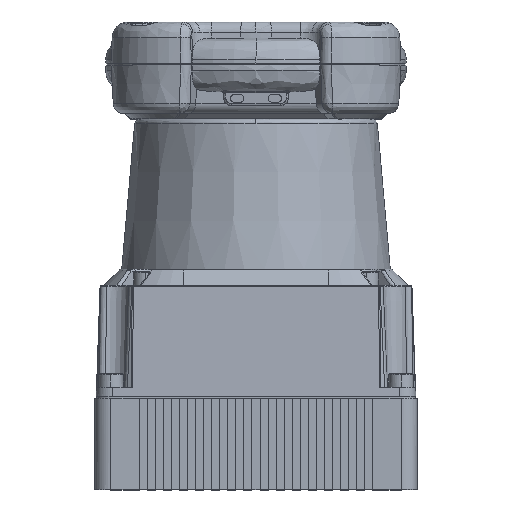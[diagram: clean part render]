
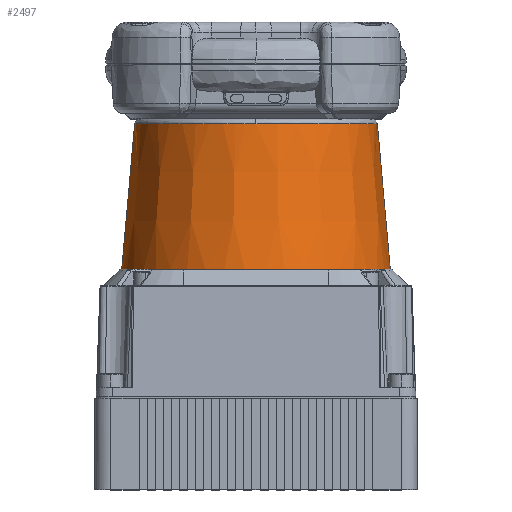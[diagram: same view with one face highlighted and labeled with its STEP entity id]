
A CAD part, top view. The second image highlights one B-rep face of the part: STEP entity #2497.
In plain terms, the highlighted conical face has half-angle 5.102 degrees and reference radius 22.581 mm.
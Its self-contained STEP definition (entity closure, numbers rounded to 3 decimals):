
#2497 = ADVANCED_FACE ( 'NONE', ( #28798 ), #28767, .T. ) ;
#2498 = EDGE_LOOP ( 'NONE', ( #2499, #2626, #2534, #2550, #2627 ) ) ;
#2499 = ORIENTED_EDGE ( 'NONE', *, *, #2500, .F. ) ;
#2500 = EDGE_CURVE ( 'NONE', #2624, #2622, #28562, .T. ) ;
#2527 = EDGE_CURVE ( 'NONE', #2622, #2537, #28622, .T. ) ;
#2534 = ORIENTED_EDGE ( 'NONE', *, *, #2635, .F. ) ;
#2537 = VERTEX_POINT ( 'NONE', #28966 ) ;
#2538 = EDGE_CURVE ( 'NONE', #2537, #2551, #28942, .T. ) ;
#2540 = VERTEX_POINT ( 'NONE', #29160 ) ;
#2550 = ORIENTED_EDGE ( 'NONE', *, *, #2538, .F. ) ;
#2551 = VERTEX_POINT ( 'NONE', #29116 ) ;
#2552 = EDGE_CURVE ( 'NONE', #2624, #2540, #29115, .T. ) ;
#2622 = VERTEX_POINT ( 'NONE', #29358 ) ;
#2624 = VERTEX_POINT ( 'NONE', #29353 ) ;
#2626 = ORIENTED_EDGE ( 'NONE', *, *, #2552, .T. ) ;
#2627 = ORIENTED_EDGE ( 'NONE', *, *, #2527, .F. ) ;
#2635 = EDGE_CURVE ( 'NONE', #2551, #2540, #29330, .T. ) ;
#28558 = CARTESIAN_POINT ( 'NONE',  ( 0., 27.089, 22.581 ) ) ;
#28559 = CARTESIAN_POINT ( 'NONE',  ( -11.699, 27.089, 22.581 ) ) ;
#28560 = CARTESIAN_POINT ( 'NONE',  ( -22.581, 27.089, 14.687 ) ) ;
#28561 = CARTESIAN_POINT ( 'NONE',  ( -22.581, 27.089, 0. ) ) ;
#28562 =( BOUNDED_CURVE ( )  B_SPLINE_CURVE ( 3, ( #28561, #28560, #28559, #28558 ),
 .UNSPECIFIED., .F., .T. ) 
 B_SPLINE_CURVE_WITH_KNOTS ( ( 4, 4 ),
 ( 0., 1. ),
 .UNSPECIFIED. ) 
 CURVE ( )  GEOMETRIC_REPRESENTATION_ITEM ( )  RATIONAL_B_SPLINE_CURVE ( ( 0.554, 0.528, 0.663, 0.959 ) ) 
 REPRESENTATION_ITEM ( '' )  );
#28606 = CARTESIAN_POINT ( 'NONE',  ( 22.581, 27.089, 0. ) ) ;
#28609 = CARTESIAN_POINT ( 'NONE',  ( 22.581, 27.089, 14.687 ) ) ;
#28611 = CARTESIAN_POINT ( 'NONE',  ( 11.699, 27.089, 22.581 ) ) ;
#28613 = CARTESIAN_POINT ( 'NONE',  ( 0., 27.089, 22.581 ) ) ;
#28622 =( BOUNDED_CURVE ( )  B_SPLINE_CURVE ( 3, ( #28613, #28611, #28609, #28606 ),
 .UNSPECIFIED., .F., .F. ) 
 B_SPLINE_CURVE_WITH_KNOTS ( ( 4, 4 ),
 ( 0., 1. ),
 .UNSPECIFIED. ) 
 CURVE ( )  GEOMETRIC_REPRESENTATION_ITEM ( )  RATIONAL_B_SPLINE_CURVE ( ( 0.959, 0.663, 0.528, 0.554 ) ) 
 REPRESENTATION_ITEM ( '' )  );
#28766 = AXIS2_PLACEMENT_3D ( 'NONE', #28803, #28773, #28772 ) ;
#28767 = CONICAL_SURFACE ( 'NONE', #28766, 22.581, 0.089 ) ;
#28772 = DIRECTION ( 'NONE',  ( 1., 0., 0. ) ) ;
#28773 = DIRECTION ( 'NONE',  ( 0., -1., 0. ) ) ;
#28798 = FACE_OUTER_BOUND ( 'NONE', #2498, .T. ) ;
#28803 = CARTESIAN_POINT ( 'NONE',  ( 0., 27.089, 0. ) ) ;
#28942 = LINE ( 'NONE', #29163, #29162 ) ;
#28966 = CARTESIAN_POINT ( 'NONE',  ( 22.581, 27.089, 0. ) ) ;
#29112 = DIRECTION ( 'NONE',  ( -0.089, -0.996, 0. ) ) ;
#29113 = VECTOR ( 'NONE', #29112, 1000. ) ;
#29114 = CARTESIAN_POINT ( 'NONE',  ( -22.581, 27.089, 0. ) ) ;
#29115 = LINE ( 'NONE', #29114, #29113 ) ;
#29116 = CARTESIAN_POINT ( 'NONE',  ( 25., 0., 0. ) ) ;
#29160 = CARTESIAN_POINT ( 'NONE',  ( -25., 0., 0. ) ) ;
#29161 = DIRECTION ( 'NONE',  ( 0.089, -0.996, 0. ) ) ;
#29162 = VECTOR ( 'NONE', #29161, 1000. ) ;
#29163 = CARTESIAN_POINT ( 'NONE',  ( 22.581, 27.089, 0. ) ) ;
#29192 = CARTESIAN_POINT ( 'NONE',  ( -22.471, 0., 11.079 ) ) ;
#29193 = CARTESIAN_POINT ( 'NONE',  ( -21.696, 0., 12.528 ) ) ;
#29194 = CARTESIAN_POINT ( 'NONE',  ( -19.877, 0., 15.25 ) ) ;
#29195 = CARTESIAN_POINT ( 'NONE',  ( -18.835, 0., 16.52 ) ) ;
#29196 = CARTESIAN_POINT ( 'NONE',  ( -16.52, 0., 18.835 ) ) ;
#29197 = CARTESIAN_POINT ( 'NONE',  ( -15.25, 0., 19.877 ) ) ;
#29198 = CARTESIAN_POINT ( 'NONE',  ( -12.528, 0., 21.696 ) ) ;
#29199 = CARTESIAN_POINT ( 'NONE',  ( -11.079, 0., 22.471 ) ) ;
#29200 = CARTESIAN_POINT ( 'NONE',  ( -8.055, 0., 23.723 ) ) ;
#29201 = CARTESIAN_POINT ( 'NONE',  ( -6.483, 0., 24.2 ) ) ;
#29202 = CARTESIAN_POINT ( 'NONE',  ( -3.272, 0., 24.839 ) ) ;
#29203 = CARTESIAN_POINT ( 'NONE',  ( -1.637, 0., 25. ) ) ;
#29204 = CARTESIAN_POINT ( 'NONE',  ( 1.637, 0., 25. ) ) ;
#29205 = CARTESIAN_POINT ( 'NONE',  ( 3.272, 0., 24.839 ) ) ;
#29206 = CARTESIAN_POINT ( 'NONE',  ( 6.483, 0., 24.2 ) ) ;
#29207 = CARTESIAN_POINT ( 'NONE',  ( 8.055, 0., 23.723 ) ) ;
#29208 = CARTESIAN_POINT ( 'NONE',  ( 11.079, 0., 22.471 ) ) ;
#29209 = CARTESIAN_POINT ( 'NONE',  ( 12.528, 0., 21.696 ) ) ;
#29210 = CARTESIAN_POINT ( 'NONE',  ( 15.25, 0., 19.877 ) ) ;
#29211 = CARTESIAN_POINT ( 'NONE',  ( 16.52, 0., 18.835 ) ) ;
#29212 = CARTESIAN_POINT ( 'NONE',  ( 18.835, 0., 16.52 ) ) ;
#29213 = CARTESIAN_POINT ( 'NONE',  ( 19.877, 0., 15.25 ) ) ;
#29214 = CARTESIAN_POINT ( 'NONE',  ( 21.696, 0., 12.528 ) ) ;
#29215 = CARTESIAN_POINT ( 'NONE',  ( 22.471, 0., 11.079 ) ) ;
#29216 = CARTESIAN_POINT ( 'NONE',  ( 23.723, 0., 8.055 ) ) ;
#29217 = CARTESIAN_POINT ( 'NONE',  ( 24.2, 0., 6.483 ) ) ;
#29218 = CARTESIAN_POINT ( 'NONE',  ( 24.839, 0., 3.272 ) ) ;
#29219 = CARTESIAN_POINT ( 'NONE',  ( 25., 0., 1.638 ) ) ;
#29220 = CARTESIAN_POINT ( 'NONE',  ( 25., 0., 0. ) ) ;
#29330 = B_SPLINE_CURVE_WITH_KNOTS ( 'NONE', 3,
 ( #29220, #29219, #29218, #29217, #29216, #29215, #29214, #29213, #29212, #29211, #29210, #29209, #29208, #29207, #29206, #29205, #29204, #29203, #29202, #29201, #29200, #29199, #29198, #29197, #29196, #29195, #29194, #29193, #29192, #29412, #29411, #29410, #29409, #29408 ),
 .UNSPECIFIED., .F., .F.,
 ( 4, 2, 2, 2, 2, 2, 2, 2, 2, 2, 2, 2, 2, 2, 2, 2, 4 ),
 ( 0., 0.063, 0.125, 0.188, 0.25, 0.313, 0.375, 0.438, 0.5, 0.563, 0.625, 0.688, 0.75, 0.813, 0.875, 0.938, 1. ),
 .UNSPECIFIED. ) ;
#29353 = CARTESIAN_POINT ( 'NONE',  ( -22.581, 27.089, 0. ) ) ;
#29358 = CARTESIAN_POINT ( 'NONE',  ( 0., 27.089, 22.581 ) ) ;
#29408 = CARTESIAN_POINT ( 'NONE',  ( -25., 0., 0. ) ) ;
#29409 = CARTESIAN_POINT ( 'NONE',  ( -25., 0., 1.639 ) ) ;
#29410 = CARTESIAN_POINT ( 'NONE',  ( -24.839, 0., 3.272 ) ) ;
#29411 = CARTESIAN_POINT ( 'NONE',  ( -24.2, 0., 6.483 ) ) ;
#29412 = CARTESIAN_POINT ( 'NONE',  ( -23.723, 0., 8.055 ) ) ;
